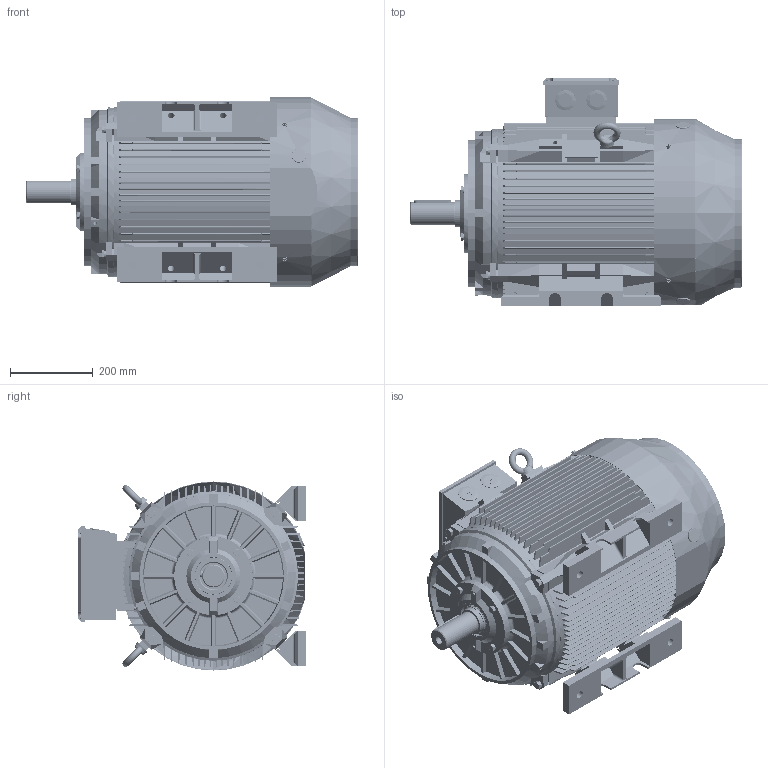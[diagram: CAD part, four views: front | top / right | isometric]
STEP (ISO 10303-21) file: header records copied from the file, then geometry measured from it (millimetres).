
FILE_DESCRIPTION (( 'STEP AP214' ), '1' );
FILE_NAME ('BCT4450.22D203.11.step', '2020-04-23T13:49:34', ( '' ), ( '' ), 'SwSTEP 2.0', 'SolidWorks 2019', '' );
FILE_SCHEMA (( 'AUTOMOTIVE_DESIGN' ));
Length unit declared in the file: millimetre
Products named in the file (1): BCT4450.22D203.11
Bounding box: 804.52 x 553.97 x 458.4 mm (x, y, z)
Volume: 21403748 mm3; surface area: 5200120.2 mm2
Topology: 53 solids, 54 shells, 8155 faces, 23546 edges, 15434 vertices
Faces by surface type: plane 4027, cylinder 3116, cone 422, torus 340, sphere 128, bspline 122
Entity records: 301656 total; most frequent: CARTESIAN_POINT 83412, ORIENTED_EDGE 46672, DIRECTION 44495, EDGE_CURVE 23336, AXIS2_PLACEMENT_3D 15505, VERTEX_POINT 15370, VECTOR 13485, LINE 13485
